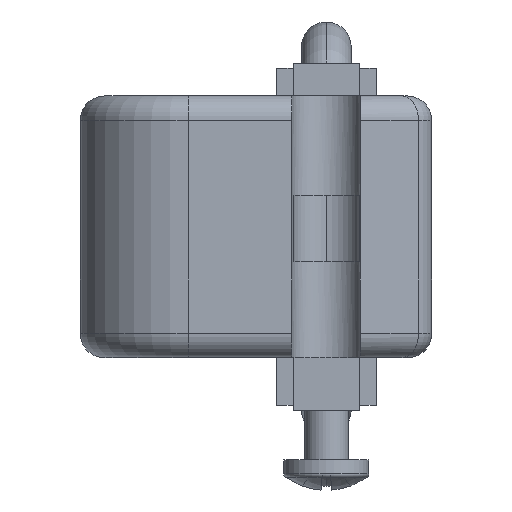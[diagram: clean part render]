
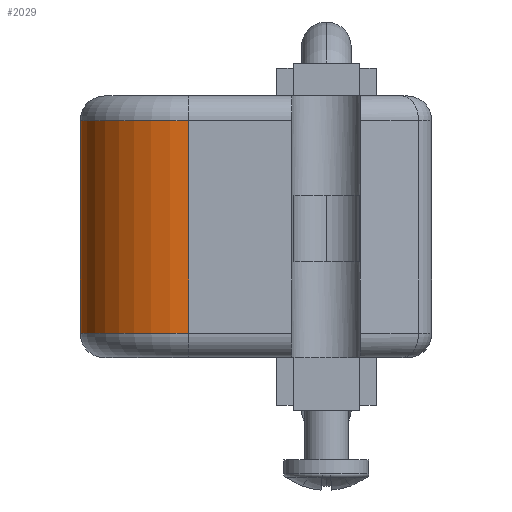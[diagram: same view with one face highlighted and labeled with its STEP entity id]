
A CAD part, left-side view. The second image highlights one B-rep face of the part: STEP entity #2029.
In plain terms, the highlighted cylindrical face has radius 10.414 mm (diameter 20.828 mm), a partial arc.
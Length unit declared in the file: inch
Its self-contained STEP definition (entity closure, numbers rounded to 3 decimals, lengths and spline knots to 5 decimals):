
#288 = DIRECTION ( 'NONE',  ( 0., 0., 1. ) ) ;
#364 = DIRECTION ( 'NONE',  ( 0., 0., -1. ) ) ;
#397 = LINE ( 'NONE', #7593, #4311 ) ;
#561 = EDGE_CURVE ( 'NONE', #8575, #7690, #7315, .T. ) ;
#706 = CARTESIAN_POINT ( 'NONE',  ( 0.41, 0.8, 0.09375 ) ) ;
#839 = EDGE_CURVE ( 'NONE', #2804, #7690, #397, .T. ) ;
#1006 = CARTESIAN_POINT ( 'NONE',  ( 0., 0.39, 0.89625 ) ) ;
#1060 = DIRECTION ( 'NONE',  ( 0., 0., 1. ) ) ;
#1203 = CARTESIAN_POINT ( 'NONE',  ( 0., 0.39, 0.99 ) ) ;
#1236 = AXIS2_PLACEMENT_3D ( 'NONE', #5031, #1060, #5698 ) ;
#1866 = DIRECTION ( 'NONE',  ( 0., 0., -1. ) ) ;
#2029 = ADVANCED_FACE ( 'NONE', ( #5009 ), #6565, .T. ) ;
#2078 = DIRECTION ( 'NONE',  ( 0., 0., -1. ) ) ;
#2467 = CARTESIAN_POINT ( 'NONE',  ( 0.41, 0.8, 0.89625 ) ) ;
#2742 = DIRECTION ( 'NONE',  ( -1., 0., 0. ) ) ;
#2804 = VERTEX_POINT ( 'NONE', #706 ) ;
#2963 = LINE ( 'NONE', #1203, #7827 ) ;
#3026 = ORIENTED_EDGE ( 'NONE', *, *, #561, .T. ) ;
#3944 = ORIENTED_EDGE ( 'NONE', *, *, #839, .F. ) ;
#4029 = ORIENTED_EDGE ( 'NONE', *, *, #4434, .T. ) ;
#4308 = CARTESIAN_POINT ( 'NONE',  ( 0.41, 0.39, 0.89625 ) ) ;
#4311 = VECTOR ( 'NONE', #288, 39.37008 ) ;
#4337 = CARTESIAN_POINT ( 'NONE',  ( 0., 0.39, 0.09375 ) ) ;
#4404 = AXIS2_PLACEMENT_3D ( 'NONE', #4308, #364, #4978 ) ;
#4434 = EDGE_CURVE ( 'NONE', #2804, #6756, #8051, .T. ) ;
#4978 = DIRECTION ( 'NONE',  ( 1., 0., 0. ) ) ;
#5009 = FACE_OUTER_BOUND ( 'NONE', #6564, .T. ) ;
#5031 = CARTESIAN_POINT ( 'NONE',  ( 0.41, 0.39, 0.09375 ) ) ;
#5698 = DIRECTION ( 'NONE',  ( 1., 0., 0. ) ) ;
#6564 = EDGE_LOOP ( 'NONE', ( #3944, #4029, #7449, #3026 ) ) ;
#6565 = CYLINDRICAL_SURFACE ( 'NONE', #8162, 0.41 ) ;
#6730 = CARTESIAN_POINT ( 'NONE',  ( 0.41, 0.39, 0.99 ) ) ;
#6756 = VERTEX_POINT ( 'NONE', #4337 ) ;
#6914 = EDGE_CURVE ( 'NONE', #8575, #6756, #2963, .T. ) ;
#7315 = CIRCLE ( 'NONE', #4404, 0.41 ) ;
#7449 = ORIENTED_EDGE ( 'NONE', *, *, #6914, .F. ) ;
#7593 = CARTESIAN_POINT ( 'NONE',  ( 0.41, 0.8, 0.99 ) ) ;
#7690 = VERTEX_POINT ( 'NONE', #2467 ) ;
#7827 = VECTOR ( 'NONE', #1866, 39.37008 ) ;
#8051 = CIRCLE ( 'NONE', #1236, 0.41 ) ;
#8162 = AXIS2_PLACEMENT_3D ( 'NONE', #6730, #2078, #2742 ) ;
#8575 = VERTEX_POINT ( 'NONE', #1006 ) ;
